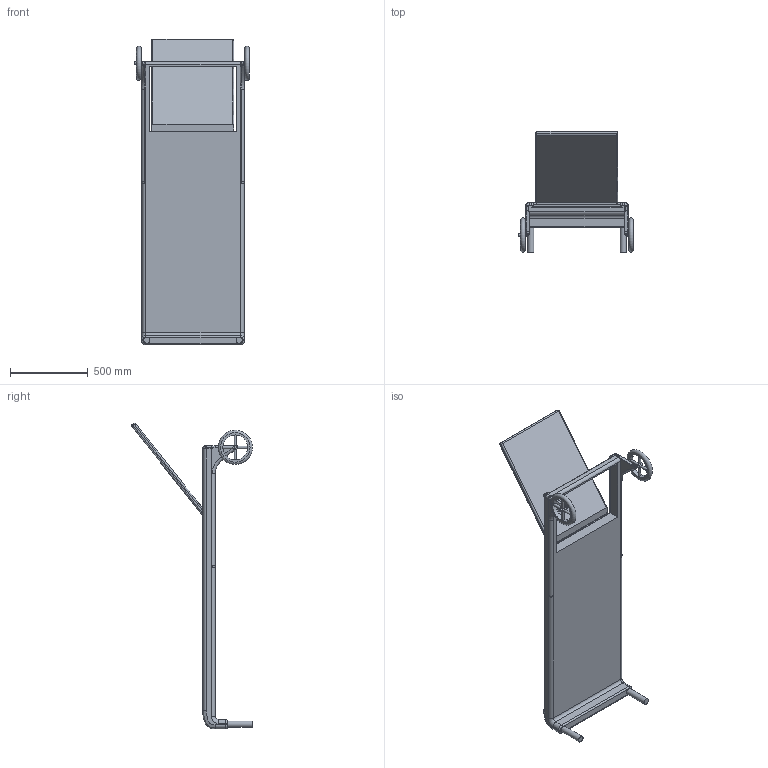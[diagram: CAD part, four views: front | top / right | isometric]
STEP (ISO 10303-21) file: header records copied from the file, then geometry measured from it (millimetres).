
FILE_DESCRIPTION(/* description */ (''),/* implementation_level */ '2;1');
FILE_NAME(/* name */ 'c:\worker\convert-fusion-jan-2019\tmp\job-1\1\output\files\e520154c-2c63-4391-98cf-1675c90fe1e4\eff849eb-dff4-4827-8d9b-54f0472582bc.stp',/* time_stamp */ '2019-02-05T09:03:53+00:00',/* author */ (''),/* organization */ (''),/* preprocessor_version */ 'ST-DEVELOPER v17.2',/* originating_system */ 'Autodesk Translation Framework v7.6.0.251',/* authorisation */ '');
FILE_SCHEMA (('AUTOMOTIVE_DESIGN { 1 0 10303 214 3 1 1 }'));
Length unit declared in the file: millimetre
Products named in the file (1): VincentSheppard_DovileSunloungerWithoutArms
Bounding box: 738 x 776.72 x 1965.91 mm (x, y, z)
Volume: 93102815.6 mm3; surface area: 3903608.3 mm2
Topology: 19 solids, 19 shells, 203 faces, 465 edges, 281 vertices
Faces by surface type: cylinder 86, plane 53, bspline 51, torus 8, sphere 5
Full cylindrical faces by diameter (mm): 16 x14, 30 x4, 40 x2, 160 x2, 190 x2
Entity records: 7978 total; most frequent: CARTESIAN_POINT 3613, ORIENTED_EDGE 914, DIRECTION 857, EDGE_CURVE 457, AXIS2_PLACEMENT_3D 350, VERTEX_POINT 281, EDGE_LOOP 214, FACE_OUTER_BOUND 203
